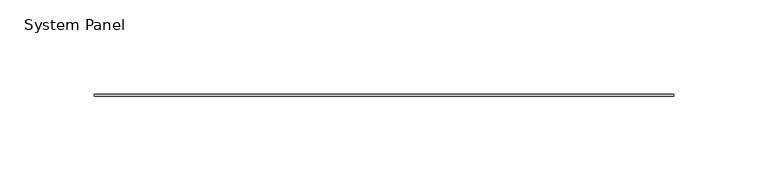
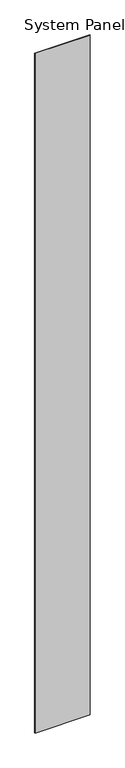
"""IFC4 building model written with IfcOpenShell, lengths in millimetres: plate geometry, System Panel : Stratco_Hiland_Interlock_Panel."""

from ifc_helpers import new_model, si_unit, origin, origin_with_axes, place, context, project, spatial, polyline, outline, extrude, source, transform, mapped, element, save


def system_panel_b67cd40e(model_context):
    return source(origin(), model_context, "Body", "SweptSolid", [
        extrude(outline(polyline([(153.4999998, 24.0), (-153.4999998, 24.0), (-153.4999998, 25.0), (153.4999998, 25.0), (153.4999998, 24.0)])), origin_with_axes(), (0.0, 0.0, 1.0), 4000.0),
    ])


if __name__ == "__main__":
    model = new_model("IFC4")
    model_context = context("Model", 3, world=origin())
    ifc_project = project(units=[si_unit("LENGTHUNIT", "METRE", prefix="MILLI")], contexts=[model_context])
    site = spatial("IfcSite", under=ifc_project)
    building = spatial("IfcBuilding", under=site)
    placement = place(None, origin())
    system_panel_shape = system_panel_b67cd40e(model_context)
    element("IfcPlate", 1, ObjectType="System Panel : Stratco_Hiland_Interlock_Panel", at=placement, inside=building, context=model_context, shape_type="MappedRepresentation", body=[
        mapped(system_panel_shape, transform((0.0, 0.0, 0.0), x_axis=(1.0, 0.0, 0.0), y_axis=(0.0, 1.0, 0.0), z_axis=(0.0, 0.0, 1.0))),
    ])
    save(model, "model.ifc")
